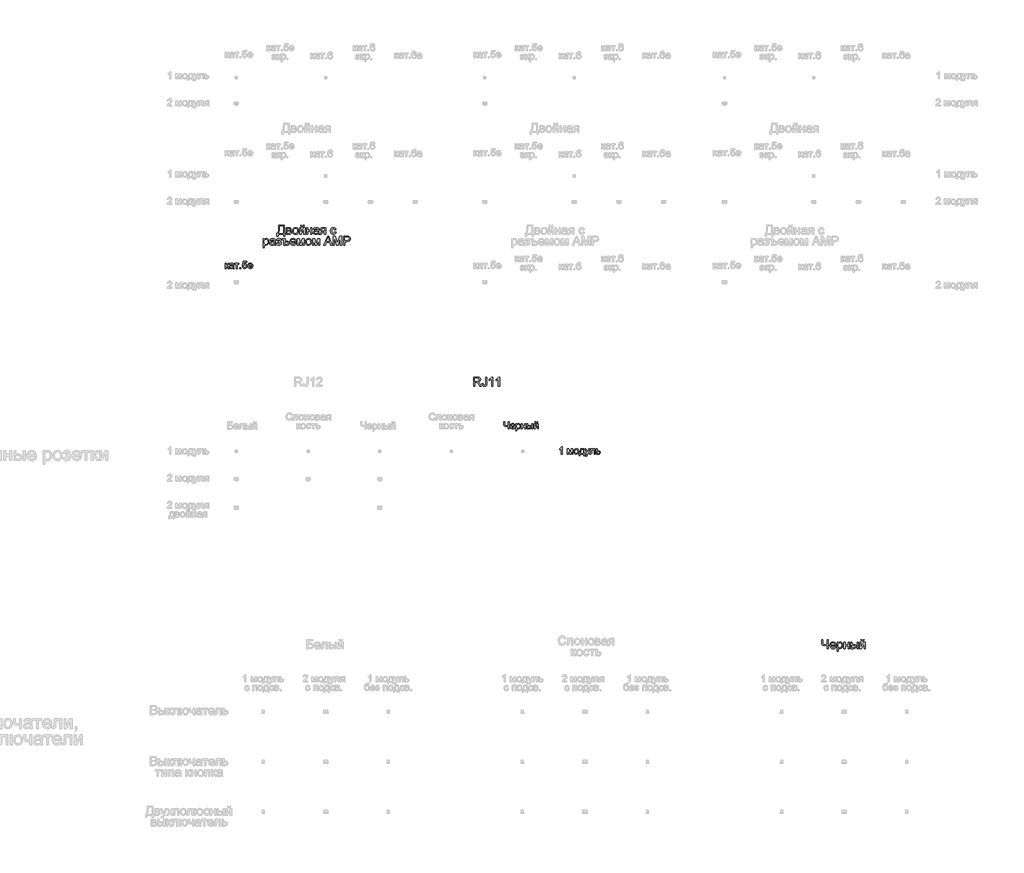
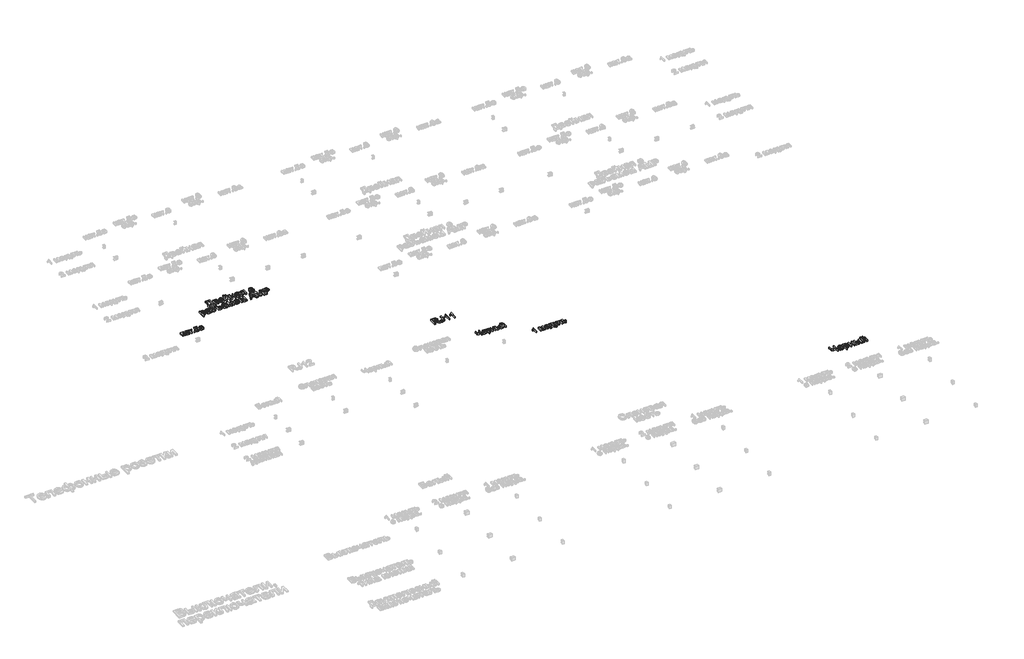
# One storey, part 23 of 47: 6 proxies.
"""IFC4 building model written with IfcOpenShell, lengths in millimetres."""

from ifc_helpers import new_model, si_unit, origin, origin_with_axes, place, context, project, spatial, polyline, outline, extrude, element, save

model = new_model("IFC4")

# Units and contexts
model_context = context("Model", 3, world=origin())
ifc_project = project(units=[si_unit("LENGTHUNIT", "METRE", prefix="MILLI")], contexts=[model_context])

# Site, building, storey
site = spatial("IfcSite", under=ifc_project)
building = spatial("IfcBuilding", under=site)
storey = spatial("IfcBuildingStorey", under=building, Name="Этаж 01", Elevation=0.0)

# Proxies
placement = place(None, origin())
element("IfcBuildingElementProxy", 1, Name="100 мм Arial", ObjectType="100 мм Arial", at=placement, inside=storey, context=model_context, shape_type="SweptSolid", body=[
    extrude(outline(polyline([(6629.1197653, -27927.0914705), (6616.5627265, -27927.0914705), (6616.5627265, -27886.8697057), (6585.4644352, -27894.1292437), (6567.1071236, -27889.1628368), (6556.4630712, -27876.5567471), (6553.7775327, -27856.5562293), (6553.7775327, -27826.6351603), (6566.3345714, -27826.6351603), (6566.3345714, -27854.8639721), (6567.8428876, -27868.4418834), (6572.3678362, -27876.4095943), (6586.8623868, -27881.572205), (6616.5627265, -27875.3427365), (6616.5627265, -27826.6351603), (6629.1197653, -27826.6351603), (6629.1197653, -27927.0914705)])), origin_with_axes(), (0.0, 0.0, 1.0), 20.0),
    extrude(outline(polyline([(6701.1755854, -27905.1166526), (6713.4873695, -27906.6862825), (6709.0513258, -27915.9630401), (6701.9726631, -27922.8976157), (6692.4107969, -27927.2202292), (6680.5251427, -27928.6611003), (6665.7914688, -27926.1748312), (6654.454572, -27918.7160237), (6647.2256908, -27906.7690559), (6644.8160637, -27890.8183058), (6647.2502163, -27874.331061), (6654.5526739, -27862.0008828), (6665.7362865, -27854.3121491), (6679.8139042, -27851.7492379), (6693.4531292, -27854.3060177), (6704.3516333, -27861.9763573), (6711.497741, -27874.2820101), (6713.879777, -27890.7447294), (6713.8062006, -27894.1292437), (6657.3731025, -27894.1292437), (6659.546672, -27903.5286287), (6664.5958523, -27910.4386788), (6671.8829815, -27914.6877159), (6680.7703974, -27916.1040616), (6693.0821815, -27913.4798367), (6701.1755854, -27905.1166526)]), holes=[polyline([(6657.3731025, -27881.572205), (6701.3227382, -27881.572205), (6696.2950176, -27870.1923886), (6688.9741659, -27865.7778046), (6679.7648533, -27864.3062766), (6664.3015467, -27869.0029034), (6659.4363074, -27874.4935422), (6657.3731025, -27881.572205)])]), origin_with_axes(), (0.0, 0.0, 1.0), 20.0),
    extrude(outline(polyline([(6726.4368157, -27955.3448077), (6726.4368157, -27853.3188677), (6738.9938545, -27853.3188677), (6738.9938545, -27865.6306518), (6747.6758696, -27855.2195914), (6759.3990425, -27851.7492379), (6775.3160702, -27856.6052802), (6785.7148679, -27870.2904904), (6789.2220096, -27889.6410834), (6785.2611468, -27909.9849577), (6773.758703, -27923.8418462), (6757.8784636, -27928.6611003), (6746.9523683, -27925.4360015), (6738.9938545, -27917.2812839), (6738.9938545, -27955.3448077), (6726.4368157, -27955.3448077)]), holes=[polyline([(6738.9938545, -27890.7937803), (6740.3519522, -27902.0509693), (6744.4262453, -27909.923644), (6750.4380502, -27914.5589572), (6757.6086835, -27916.1040616), (6764.8958126, -27914.5037749), (6771.0609017, -27909.7029148), (6775.2639535, -27901.5420659), (6776.6649708, -27889.8618126), (6775.2976761, -27878.6659372), (6771.1957918, -27870.6828979), (6765.1931839, -27865.900432), (6758.1237182, -27864.3062766), (6751.0266614, -27866.0015995), (6744.7941273, -27871.0875681), (6740.4439227, -27879.4047669), (6738.9938545, -27890.7937803)])]), origin_with_axes(), (0.0, 0.0, 1.0), 20.0),
    extrude(outline(polyline([(6803.3486782, -27853.3188677), (6815.905717, -27853.3188677), (6815.905717, -27881.572205), (6848.8679437, -27881.572205), (6848.8679437, -27853.3188677), (6861.4249825, -27853.3188677), (6861.4249825, -27927.0914705), (6848.8679437, -27927.0914705), (6848.8679437, -27894.1292437), (6815.905717, -27894.1292437), (6815.905717, -27927.0914705), (6803.3486782, -27927.0914705), (6803.3486782, -27853.3188677)])), origin_with_axes(), (0.0, 0.0, 1.0), 20.0),
    extrude(outline(polyline([(6880.2605406, -27853.3188677), (6892.8175794, -27853.3188677), (6892.8175794, -27880.0025751), (6908.3421996, -27880.0025751), (6921.7606954, -27881.5752706), (6931.7027063, -27886.2933572), (6937.8555327, -27893.7766901), (6939.9064748, -27903.6451247), (6938.1866265, -27912.6306424), (6933.0270815, -27920.2120772), (6924.0906147, -27925.3716222), (6911.0400009, -27927.0914705), (6880.2605406, -27927.0914705), (6880.2605406, -27853.3188677)]), holes=[polyline([(6892.8175794, -27914.5344317), (6905.7179747, -27914.5344317), (6922.3707664, -27911.8979441), (6927.349436, -27903.6696501), (6923.6583533, -27895.9441282), (6907.361181, -27892.5596139), (6892.8175794, -27892.5596139), (6892.8175794, -27914.5344317)])]), origin_with_axes(), (0.0, 0.0, 1.0), 20.0),
    extrude(outline(polyline([(6949.3242539, -27853.3188677), (6961.8812926, -27853.3188677), (6961.8812926, -27927.0914705), (6949.3242539, -27927.0914705), (6949.3242539, -27853.3188677)])), origin_with_axes(), (0.0, 0.0, 1.0), 20.0),
    extrude(outline(polyline([(6980.7168508, -27853.3188677), (6993.2738896, -27853.3188677), (6993.2738896, -27909.5802875), (7024.1269262, -27853.3188677), (7040.3627849, -27853.3188677), (7040.3627849, -27927.0914705), (7027.8057462, -27927.0914705), (7027.8057462, -27871.1734072), (6997.1489132, -27927.0914705), (6980.7168508, -27927.0914705), (6980.7168508, -27853.3188677)])), origin_with_axes(), (0.0, 0.0, 1.0), 20.0),
    extrude(outline(polyline([(7021.5272268, -27826.6351603), (7030.9450059, -27826.6351603), (7024.8504275, -27840.6024134), (7011.3246328, -27845.4707185), (6996.6829294, -27840.6392016), (6990.1346299, -27826.6351603), (6999.552409, -27826.6351603), (7003.0840761, -27833.7107574), (7010.1964613, -27836.0529394), (7017.9955596, -27833.7843338), (7021.5272268, -27826.6351603)])), origin_with_axes(), (0.0, 0.0, 1.0), 20.0),
])
element("IfcBuildingElementProxy", 2, Name="100 мм Arial", ObjectType="100 мм Arial", at=placement, inside=storey, context=model_context, shape_type="SweptSolid", body=[
    extrude(outline(polyline([(479.3530791, -23190.4463281), (538.9990133, -23190.4463281), (538.9990133, -23278.3455994), (548.4167924, -23278.3455994), (548.4167924, -23314.4470859), (535.8597536, -23314.4470859), (535.8597536, -23290.9026382), (471.5049299, -23290.9026382), (471.5049299, -23314.4470859), (458.9478911, -23314.4470859), (458.9478911, -23278.3455994), (466.7960404, -23278.3455994), (476.2138194, -23250.9322594), (479.3530791, -23204.9899296), (479.3530791, -23190.4463281)]), holes=[polyline([(526.4419745, -23203.0033668), (491.9101179, -23203.0033668), (491.9101179, -23208.0556129), (489.3594694, -23242.4648422), (485.5825476, -23262.348864), (479.3530791, -23278.3455994), (526.4419745, -23278.3455994), (526.4419745, -23203.0033668)])]), origin_with_axes(), (0.0, 0.0, 1.0), 20.0),
    extrude(outline(polyline([(562.543461, -23217.1300355), (590.208187, -23217.1300355), (605.3771879, -23218.8100299), (613.9120502, -23224.9659219), (617.4805056, -23235.6958135), (615.3222645, -23244.4146168), (608.823016, -23250.6318225), (617.2597764, -23257.4376394), (620.6197653, -23269.2711769), (618.4921811, -23278.8422401), (613.4338036, -23285.580612), (605.4262389, -23289.5721317), (594.4510927, -23290.9026382), (562.543461, -23290.9026382), (562.543461, -23217.1300355)]), holes=[polyline([(575.1004997, -23245.3833727), (587.5103857, -23245.3833727), (597.7497679, -23244.7457106), (602.7284376, -23242.1950621), (604.9234668, -23237.5842744), (601.0729686, -23231.4283823), (587.9027932, -23229.6870742), (575.1004997, -23229.6870742), (575.1004997, -23245.3833727)]), polyline([(575.1004997, -23278.3455994), (590.5024926, -23278.3455994), (604.1631774, -23276.0769938), (608.0627265, -23268.2411073), (605.9167482, -23262.1955799), (600.3249419, -23258.6761754), (589.2762193, -23257.9404114), (575.1004997, -23257.9404114), (575.1004997, -23278.3455994)])]), origin_with_axes(), (0.0, 0.0, 1.0), 20.0),
    extrude(outline(polyline([(633.176804, -23254.0163368), (635.8929994, -23236.2292424), (644.0415856, -23223.7273859), (654.1092896, -23217.6021507), (666.1635563, -23215.5604056), (679.3551915, -23218.0466748), (689.891945, -23225.5054822), (696.7989294, -23237.3482168), (699.1012576, -23252.9862672), (695.0300302, -23275.3289671), (683.1719672, -23287.971845), (666.1635563, -23292.4722681), (652.8125055, -23289.995196), (642.2880148, -23282.5639797), (635.4546067, -23270.4729248), (633.176804, -23254.0163368)]), holes=[polyline([(645.7338428, -23253.9918114), (647.1869767, -23265.3562993), (651.5463783, -23273.4527689), (658.1069406, -23278.2996142), (666.1635563, -23279.9152293), (674.1833838, -23278.2904171), (680.7316833, -23273.4159807), (685.0910849, -23265.2122122), (686.5442188, -23253.5994039), (685.0818879, -23242.5660097), (680.6948951, -23234.5799048), (674.1373985, -23229.7330595), (666.1635563, -23228.1174444), (658.1069406, -23229.7269281), (651.5463783, -23234.5553793), (647.1869767, -23242.6334548), (645.7338428, -23253.9918114)])]), origin_with_axes(), (0.0, 0.0, 1.0), 20.0),
    extrude(outline(polyline([(713.2279262, -23217.1300355), (725.784965, -23217.1300355), (725.784965, -23273.3914552), (756.6380016, -23217.1300355), (772.8738603, -23217.1300355), (772.8738603, -23290.9026382), (760.3168216, -23290.9026382), (760.3168216, -23234.984575), (729.6599886, -23290.9026382), (713.2279262, -23290.9026382), (713.2279262, -23217.1300355)])), origin_with_axes(), (0.0, 0.0, 1.0), 20.0),
    extrude(outline(polyline([(754.0383022, -23190.4463281), (763.4560813, -23190.4463281), (757.3615029, -23204.4135812), (743.8357082, -23209.2818862), (729.1940048, -23204.4503694), (722.6457053, -23190.4463281), (732.0634843, -23190.4463281), (735.5951515, -23197.5219251), (742.7075367, -23199.8641071), (750.506635, -23197.5955015), (754.0383022, -23190.4463281)])), origin_with_axes(), (0.0, 0.0, 1.0), 20.0),
    extrude(outline(polyline([(791.7094185, -23217.1300355), (804.2664573, -23217.1300355), (804.2664573, -23245.3833727), (837.228684, -23245.3833727), (837.228684, -23217.1300355), (849.7857228, -23217.1300355), (849.7857228, -23290.9026382), (837.228684, -23290.9026382), (837.228684, -23257.9404114), (804.2664573, -23257.9404114), (804.2664573, -23290.9026382), (791.7094185, -23290.9026382), (791.7094185, -23217.1300355)])), origin_with_axes(), (0.0, 0.0, 1.0), 20.0),
    extrude(outline(polyline([(915.7101763, -23281.4848591), (903.5332823, -23289.995196), (890.081064, -23292.4722681), (879.5872301, -23290.982346), (871.8463798, -23286.5125797), (867.0731109, -23279.7251569), (865.4820213, -23271.2822651), (867.885517, -23261.3494513), (874.2008245, -23254.1389642), (882.9932042, -23250.0186858), (893.8579858, -23248.1302249), (915.6365999, -23243.8137428), (915.7101763, -23241.0178397), (912.2520856, -23231.7472134), (898.3706716, -23228.1174444), (885.6664801, -23230.5332028), (879.6086899, -23239.1048533), (867.0516511, -23237.5352234), (872.4840419, -23225.2724903), (883.4223999, -23218.0865286), (899.9893524, -23215.5604056), (915.2074043, -23217.792223), (923.8035802, -23223.3962921), (927.6540784, -23231.9188917), (928.2672151, -23242.9063006), (928.2672151, -23258.5290226), (928.9048772, -23280.344425), (931.4064748, -23290.9026382), (918.849436, -23290.9026382), (915.7101763, -23281.4848591)]), holes=[polyline([(915.7101763, -23256.3707816), (895.4521411, -23260.2212798), (884.6486732, -23262.2568935), (879.7558427, -23265.5678315), (878.03906, -23270.3993484), (881.7791936, -23277.1929025), (892.7543398, -23279.9152293), (905.4585314, -23276.9108597), (913.6500372, -23269.6390589), (915.6365999, -23259.9269742), (915.7101763, -23256.3707816)])]), origin_with_axes(), (0.0, 0.0, 1.0), 20.0),
    extrude(outline(polyline([(1002.0398179, -23217.1300355), (1002.0398179, -23290.9026382), (989.4827791, -23290.9026382), (989.4827791, -23262.649301), (982.640174, -23262.649301), (973.3204968, -23264.2434563), (964.5649053, -23274.9610851), (954.558515, -23290.9026382), (940.039439, -23290.9026382), (952.6455287, -23270.7427049), (963.338632, -23260.2948562), (954.7547188, -23257.6645), (948.721454, -23252.6674362), (943.9635136, -23238.4426657), (945.5883257, -23229.8464898), (950.4627621, -23223.0406728), (958.4151446, -23218.6076948), (969.2737948, -23217.1300355), (1002.0398179, -23217.1300355)]), holes=[polyline([(989.4827791, -23229.6870742), (972.9280893, -23229.6870742), (959.524922, -23232.593342), (956.5205523, -23239.3991589), (960.947399, -23247.5048255), (976.6314347, -23250.0922622), (989.4827791, -23250.0922622), (989.4827791, -23229.6870742)])]), origin_with_axes(), (0.0, 0.0, 1.0), 20.0),
    extrude(outline(polyline([(1107.2050176, -23264.2189308), (1119.7620563, -23265.7885607), (1116.261046, -23276.9568449), (1109.6820897, -23285.396671), (1100.6444553, -23290.7033688), (1089.767411, -23292.4722681), (1076.4102289, -23290.004393), (1065.9654459, -23282.6007679), (1059.2240083, -23270.586355), (1056.9768625, -23254.286117), (1060.815098, -23233.4272078), (1072.5137454, -23220.0240405), (1089.5957327, -23215.5604056), (1100.2060626, -23217.0932473), (1108.6888083, -23221.6917722), (1114.7741896, -23229.1107258), (1118.1924265, -23239.1048533), (1105.6353877, -23240.6744831), (1099.8105895, -23231.2689668), (1089.6938346, -23228.1174444), (1081.5789709, -23229.6686801), (1075.1379703, -23234.3223874), (1070.9349185, -23242.3299521), (1069.5339013, -23253.9427604), (1070.9042617, -23265.7119186), (1075.015343, -23273.7470745), (1081.3398476, -23278.3731906), (1089.3504781, -23279.9152293), (1101.1840156, -23276.0647311), (1107.2050176, -23264.2189308)])), origin_with_axes(), (0.0, 0.0, 1.0), 20.0),
    extrude(outline(polyline([(304.3393513, -23441.1307933), (304.3393513, -23339.1048533), (316.8963901, -23339.1048533), (316.8963901, -23351.4166374), (325.5784051, -23341.0055769), (337.3015781, -23337.5352234), (353.2186057, -23342.3912658), (363.6174034, -23356.076476), (367.1245451, -23375.427069), (363.1636823, -23395.7709433), (351.6612386, -23409.6278318), (335.7809991, -23414.4470859), (324.8549039, -23411.2219871), (316.8963901, -23403.0672695), (316.8963901, -23441.1307933), (304.3393513, -23441.1307933)]), holes=[polyline([(316.8963901, -23376.5797659), (318.2544878, -23387.8369549), (322.3287809, -23395.7096296), (328.3405858, -23400.3449428), (335.511219, -23401.8900471), (342.7983482, -23400.2897605), (348.9634373, -23395.4889004), (353.1664891, -23387.3280515), (354.5675064, -23375.6477982), (353.2002116, -23364.4519228), (349.0983274, -23356.4688835), (343.0957195, -23351.6864175), (336.0262538, -23350.0922622), (328.929197, -23351.7875851), (322.6966628, -23356.8735537), (318.3464583, -23365.1907524), (316.8963901, -23376.5797659)])]), origin_with_axes(), (0.0, 0.0, 1.0), 20.0),
    extrude(outline(polyline([(428.3401091, -23403.459677), (416.1632151, -23411.9700138), (402.7109968, -23414.4470859), (392.2171629, -23412.9571638), (384.4763126, -23408.4873976), (379.7030437, -23401.6999748), (378.1119541, -23393.257083), (380.5154498, -23383.3242691), (386.8307573, -23376.113782), (395.623137, -23371.9935037), (406.4879186, -23370.1050428), (428.2665327, -23365.7885607), (428.3401091, -23362.9926575), (424.8820184, -23353.7220312), (411.0006044, -23350.0922622), (398.2964129, -23352.5080207), (392.2386227, -23361.0796711), (379.6815839, -23359.5100413), (385.1139747, -23347.2473081), (396.0523327, -23340.0613465), (412.6192852, -23337.5352234), (427.8373371, -23339.7670409), (436.433513, -23345.3711099), (440.2840112, -23353.8937095), (440.8971479, -23364.8811184), (440.8971479, -23380.5038405), (441.53481, -23402.3192428), (444.0364076, -23412.8774561), (431.4793688, -23412.8774561), (428.3401091, -23403.459677)]), holes=[polyline([(428.3401091, -23378.3455994), (408.0820739, -23382.1960977), (397.278606, -23384.2317114), (392.3857755, -23387.5426493), (390.6689928, -23392.3741662), (394.4091264, -23399.1677204), (405.3842726, -23401.8900471), (418.0884642, -23398.8856775), (426.27997, -23391.6138767), (428.2665327, -23381.9017921), (428.3401091, -23378.3455994)])]), origin_with_axes(), (0.0, 0.0, 1.0), 20.0),
    extrude(outline(polyline([(475.4290045, -23379.9152293), (475.4290045, -23367.3581905), (485.3372929, -23366.8676812), (490.340488, -23364.255719), (492.6949328, -23358.7988028), (489.5434104, -23352.4589697), (481.4132183, -23350.0922622), (473.0132461, -23352.446707), (467.5808553, -23359.5100413), (453.4541867, -23357.9404114), (462.8964912, -23342.6365204), (480.137894, -23337.5352234), (490.6347936, -23339.0895249), (498.5810447, -23343.7524292), (503.5842399, -23350.5735745), (505.2519716, -23358.602599), (502.8791327, -23366.4016973), (495.7606161, -23372.4349621), (504.0624865, -23380.2585858), (506.8216014, -23391.5157749), (505.0710963, -23400.75881), (499.8195808, -23408.0827274), (491.4226743, -23412.8559963), (480.2359959, -23414.4470859), (469.2945722, -23412.9755579), (460.9221912, -23408.560974), (455.1188527, -23401.2033341), (451.8845568, -23390.9026382), (466.0112254, -23389.3330084), (471.6766082, -23398.6036346), (481.4377438, -23401.8900471), (490.6102682, -23398.7385247), (494.2645627, -23390.681909), (491.995957, -23384.0845586), (487.1644402, -23380.5528914), (477.8815511, -23379.8416529), (475.4290045, -23379.9152293)])), origin_with_axes(), (0.0, 0.0, 1.0), 20.0),
    extrude(outline(polyline([(516.2393805, -23339.1048533), (549.2016073, -23339.1048533), (549.2016073, -23367.3581905), (564.7752784, -23367.3581905), (579.0613626, -23369.0197909), (588.8102354, -23374.0045919), (594.4204359, -23381.39902), (596.2905027, -23390.2895016), (594.4694868, -23399.3669898), (589.0064392, -23406.5866739), (579.9871989, -23411.3047605), (567.4976052, -23412.8774561), (536.6445685, -23412.8774561), (536.6445685, -23351.6618921), (516.2393805, -23351.6618921), (516.2393805, -23339.1048533)]), holes=[polyline([(549.2016073, -23400.3204173), (562.126528, -23400.3204173), (578.8161079, -23397.9046589), (583.7334639, -23390.1423488), (579.5273464, -23382.5885051), (563.7697343, -23379.9152293), (549.2016073, -23379.9152293), (549.2016073, -23400.3204173)])]), origin_with_axes(), (0.0, 0.0, 1.0), 20.0),
    extrude(outline(polyline([(662.0678034, -23390.9026382), (674.3795875, -23392.4722681), (669.9435438, -23401.7490257), (662.8648811, -23408.6836013), (653.3030149, -23413.0062148), (641.4173607, -23414.4470859), (626.6836868, -23411.9608168), (615.34679, -23404.5020093), (608.1179088, -23392.5550415), (605.7082817, -23376.6042913), (608.1424343, -23360.1170466), (615.4448919, -23347.7868684), (626.6285045, -23340.0981347), (640.7061222, -23337.5352234), (654.3453472, -23340.0920033), (665.2438513, -23347.7623429), (672.389959, -23360.0679957), (674.771995, -23376.5307149), (674.6984186, -23379.9152293), (618.2653205, -23379.9152293), (620.43889, -23389.3146143), (625.4880703, -23396.2246644), (632.7751995, -23400.4737015), (641.6626154, -23401.8900471), (653.9743995, -23399.2658222), (662.0678034, -23390.9026382)]), holes=[polyline([(618.2653205, -23367.3581905), (662.2149562, -23367.3581905), (657.1872356, -23355.9783741), (649.8663839, -23351.5637902), (640.6570713, -23350.0922622), (625.1937647, -23354.788889), (620.3285254, -23360.2795278), (618.2653205, -23367.3581905)])]), origin_with_axes(), (0.0, 0.0, 1.0), 20.0),
    extrude(outline(polyline([(687.3290337, -23339.1048533), (708.9359696, -23339.1048533), (725.5887612, -23398.1621763), (743.5414026, -23339.1048533), (764.2408962, -23339.1048533), (764.2408962, -23412.8774561), (751.6838574, -23412.8774561), (751.6838574, -23353.4767766), (733.6331142, -23412.8774561), (717.1520008, -23412.8774561), (699.8860725, -23350.6318225), (699.8860725, -23412.8774561), (687.3290337, -23412.8774561), (687.3290337, -23339.1048533)])), origin_with_axes(), (0.0, 0.0, 1.0), 20.0),
    extrude(outline(polyline([(779.9371947, -23375.9911547), (782.65339, -23358.2040602), (790.8019762, -23345.7022037), (800.8696802, -23339.5769685), (812.9239469, -23337.5352234), (826.1155821, -23340.0214926), (836.6523356, -23347.4803001), (843.55932, -23359.3230346), (845.8616482, -23374.9610851), (841.7904208, -23397.3037849), (829.9323578, -23409.9466628), (812.9239469, -23414.4470859), (799.5728961, -23411.9700138), (789.0484054, -23404.5387975), (782.2149973, -23392.4477426), (779.9371947, -23375.9911547)]), holes=[polyline([(792.4942334, -23375.9666292), (793.9473673, -23387.3311172), (798.3067689, -23395.4275868), (804.8673312, -23400.274432), (812.9239469, -23401.8900471), (820.9437744, -23400.265235), (827.4920739, -23395.3907986), (831.8514755, -23387.1870301), (833.3046094, -23375.5742218), (831.8422785, -23364.5408276), (827.4552857, -23356.5547226), (820.8977891, -23351.7078773), (812.9239469, -23350.0922622), (804.8673312, -23351.7017459), (798.3067689, -23356.5301971), (793.9473673, -23364.6082726), (792.4942334, -23375.9666292)])]), origin_with_axes(), (0.0, 0.0, 1.0), 20.0),
    extrude(outline(polyline([(859.9883168, -23339.1048533), (881.5952527, -23339.1048533), (898.2480443, -23398.1621763), (916.2006857, -23339.1048533), (936.9001793, -23339.1048533), (936.9001793, -23412.8774561), (924.3431405, -23412.8774561), (924.3431405, -23353.4767766), (906.2923973, -23412.8774561), (889.8112839, -23412.8774561), (872.5453556, -23350.6318225), (872.5453556, -23412.8774561), (859.9883168, -23412.8774561), (859.9883168, -23339.1048533)])), origin_with_axes(), (0.0, 0.0, 1.0), 20.0),
    extrude(outline(polyline([(984.847466, -23412.8774561), (1024.9466034, -23312.4211459), (1035.6397068, -23312.4211459), (1075.7388442, -23412.8774561), (1062.4705669, -23412.8774561), (1050.9681232, -23381.4848591), (1009.5936615, -23381.4848591), (998.1157433, -23412.8774561), (984.847466, -23412.8774561)]), holes=[polyline([(1014.2044492, -23368.9278204), (1046.381861, -23368.9278204), (1037.3319639, -23344.2306758), (1030.2931551, -23324.9781847), (1024.0391612, -23342.0724347), (1014.2044492, -23368.9278204)])]), origin_with_axes(), (0.0, 0.0, 1.0), 20.0),
    extrude(outline(polyline([(1089.1542743, -23412.8774561), (1089.1542743, -23312.4211459), (1110.7612102, -23312.4211459), (1131.313551, -23383.2261673), (1135.4583548, -23398.0150235), (1139.9465151, -23381.9998939), (1160.1554994, -23312.4211459), (1181.7624353, -23312.4211459), (1181.7624353, -23412.8774561), (1169.2053965, -23412.8774561), (1169.2053965, -23324.9781847), (1143.9686916, -23412.8774561), (1126.948018, -23412.8774561), (1101.7113131, -23324.9781847), (1101.7113131, -23412.8774561), (1089.1542743, -23412.8774561)])), origin_with_axes(), (0.0, 0.0, 1.0), 20.0),
    extrude(outline(polyline([(1203.7372531, -23412.8774561), (1203.7372531, -23312.4211459), (1240.966911, -23312.4211459), (1255.9764964, -23313.3776391), (1268.1779159, -23318.0742659), (1276.0873788, -23327.7863506), (1279.0794857, -23341.4838235), (1277.0592004, -23353.3234924), (1270.9983445, -23363.1888612), (1259.6645134, -23369.8475254), (1241.8253023, -23372.0670801), (1216.2942919, -23372.0670801), (1216.2942919, -23412.8774561), (1203.7372531, -23412.8774561)]), holes=[polyline([(1216.2942919, -23359.5100413), (1242.5610663, -23359.5100413), (1261.0532679, -23354.8992536), (1265.1551522, -23349.3503669), (1266.5224469, -23341.9252819), (1263.2973481, -23331.5264842), (1254.8237995, -23325.836576), (1242.2667607, -23324.9781847), (1216.2942919, -23324.9781847), (1216.2942919, -23359.5100413)])]), origin_with_axes(), (0.0, 0.0, 1.0), 20.0),
])
element("IfcBuildingElementProxy", 3, Name="80 мм Arial", ObjectType="80 мм Arial", at=placement, inside=storey, context=model_context, shape_type="SweptSolid", body=[
    extrude(outline(polyline([(-119.3935865, -23614.963684), (-109.3479555, -23614.963684), (-109.3479555, -23640.0777615), (-102.6181676, -23638.2726872), (-97.1048427, -23627.7561672), (-92.5234856, -23618.6817447), (-88.4816888, -23615.7288785), (-81.133859, -23614.963684), (-79.2110625, -23614.963684), (-79.2110625, -23625.0681761), (-81.918674, -23625.009315), (-86.8237672, -23626.0688151), (-90.2769529, -23632.6808809), (-94.3285599, -23639.8325069), (-100.0086579, -23643.3347434), (-93.6712774, -23647.2441028), (-87.4516192, -23655.4797544), (-76.6996547, -23673.9817662), (-88.1187119, -23673.9817662), (-98.6548522, -23655.8721618), (-103.9523529, -23648.2104062), (-109.3479555, -23646.3562809), (-109.3479555, -23673.9817662), (-119.3935865, -23673.9817662), (-119.3935865, -23614.963684)])), origin_with_axes(), (0.0, 0.0, 1.0), 20.0),
    extrude(outline(polyline([(-32.750019, -23666.4475429), (-42.4915343, -23673.2558124), (-53.2533089, -23675.2374701), (-67.8410563, -23670.4697194), (-72.9325431, -23658.2854677), (-71.0097465, -23650.3392166), (-65.9575005, -23644.570827), (-58.9235967, -23641.2746043), (-50.2317715, -23639.7638355), (-32.8088802, -23636.3106499), (-32.750019, -23634.0739274), (-35.5164916, -23626.6574263), (-46.6216228, -23623.7536111), (-56.7849761, -23625.6862179), (-61.6312082, -23632.5435383), (-71.6768392, -23631.2878344), (-67.3309266, -23621.4776478), (-58.5802402, -23615.7288785), (-45.3266782, -23613.7079801), (-33.1522367, -23615.4934341), (-26.2752959, -23619.9766893), (-23.1948974, -23626.7947689), (-22.704388, -23635.5846961), (-22.704388, -23648.0828737), (-22.1942583, -23665.5351956), (-20.1929803, -23673.9817662), (-30.2386113, -23673.9817662), (-32.750019, -23666.4475429)]), holes=[polyline([(-32.750019, -23646.3562809), (-48.9564472, -23649.4366795), (-57.5992215, -23651.0651704), (-61.513486, -23653.7139208), (-62.8869121, -23657.5791343), (-59.8948052, -23663.0139776), (-51.1146882, -23665.1918391), (-40.951335, -23662.7883434), (-34.3981304, -23656.9709027), (-32.8088802, -23649.201235), (-32.750019, -23646.3562809)])]), origin_with_axes(), (0.0, 0.0, 1.0), 20.0),
    extrude(outline(polyline([(-13.9144609, -23614.963684), (33.8022864, -23614.963684), (33.8022864, -23625.009315), (14.9667283, -23625.009315), (14.9667283, -23673.9817662), (4.9210973, -23673.9817662), (4.9210973, -23625.009315), (-13.9144609, -23625.009315), (-13.9144609, -23614.963684)])), origin_with_axes(), (0.0, 0.0, 1.0), 20.0),
    extrude(outline(polyline([(45.1036213, -23673.9817662), (45.1036213, -23663.9361352), (55.1492523, -23663.9361352), (55.1492523, -23673.9817662), (45.1036213, -23673.9817662)])), origin_with_axes(), (0.0, 0.0, 1.0), 20.0),
    extrude(outline(polyline([(71.4734027, -23652.6348003), (81.5190338, -23651.3790964), (86.58109, -23661.7288432), (97.0779896, -23665.1918391), (109.6742691, -23660.3750375), (114.1673346, -23647.5923644), (109.9587645, -23635.6631776), (97.2349526, -23631.2878344), (88.4155949, -23633.0340476), (82.7747376, -23637.5663538), (72.7291066, -23636.3106499), (81.5190338, -23594.872422), (120.4458539, -23594.872422), (120.4458539, -23604.918053), (89.6418682, -23604.918053), (85.3450065, -23627.0498338), (100.0406659, -23621.2422034), (109.4265619, -23623.0423726), (117.2183026, -23628.4428803), (122.4642998, -23636.6736268), (124.2129656, -23646.9645125), (122.6384306, -23657.0101435), (117.9148258, -23665.6038669), (108.8698338, -23672.8290693), (97.0387489, -23675.2374701), (87.1721537, -23673.6899131), (79.3117418, -23669.0472424), (73.9234968, -23661.849018), (71.4734027, -23652.6348003)])), origin_with_axes(), (0.0, 0.0, 1.0), 20.0),
    extrude(outline(polyline([(176.8348062, -23656.4019119), (186.6842334, -23657.6576158), (177.4724683, -23670.6266824), (160.314452, -23675.2374701), (148.5275129, -23673.2484548), (139.4579954, -23667.2814088), (133.6748905, -23657.7238346), (131.7471888, -23644.9632344), (133.6945109, -23631.7734386), (139.5364769, -23621.9092961), (148.4833671, -23615.7583091), (159.7454612, -23613.7079801), (170.6568412, -23615.753404), (179.3756445, -23621.8896757), (185.0925307, -23631.7341979), (186.9981594, -23644.9043733), (186.9392983, -23647.6119848), (141.7928198, -23647.6119848), (147.5710197, -23660.6595329), (160.5106558, -23665.1918391), (170.360083, -23663.0924591), (176.8348062, -23656.4019119)]), holes=[polyline([(141.7928198, -23637.5663538), (176.9525284, -23637.5663538), (172.9303519, -23628.4625007), (159.7062205, -23623.7536111), (147.3355752, -23627.5109126), (141.7928198, -23637.5663538)])]), origin_with_axes(), (0.0, 0.0, 1.0), 20.0),
])
element("IfcBuildingElementProxy", 4, Name="80 мм Arial", ObjectType="80 мм Arial", at=placement, inside=storey, context=model_context, shape_type="SweptSolid", body=[
    extrude(outline(polyline([(3055.5237699, -25468.4824925), (3045.4781389, -25468.4824925), (3045.4781389, -25436.3050806), (3020.5995059, -25442.1127111), (3005.9136566, -25438.1395855), (2997.3984147, -25428.0547138), (2995.2499839, -25412.0542995), (2995.2499839, -25388.1174444), (3005.2956149, -25388.1174444), (3005.2956149, -25410.7004938), (3006.5022678, -25421.5628228), (3010.1222267, -25427.9369915), (3021.7178671, -25432.0670801), (3045.4781389, -25427.0835053), (3045.4781389, -25388.1174444), (3055.5237699, -25388.1174444), (3055.5237699, -25468.4824925)])), origin_with_axes(), (0.0, 0.0, 1.0), 20.0),
    extrude(outline(polyline([(3113.168426, -25450.9026382), (3123.0178533, -25452.1583421), (3113.8060882, -25465.1274087), (3096.6480719, -25469.7381964), (3084.8611328, -25467.749181), (3075.7916153, -25461.7821351), (3070.0085104, -25452.2245609), (3068.0808087, -25439.4639607), (3070.0281307, -25426.2741649), (3075.8700968, -25416.4100223), (3084.816987, -25410.2590354), (3096.0790811, -25408.2087064), (3106.9904611, -25410.2541303), (3115.7092644, -25416.390402), (3121.4261506, -25426.2349242), (3123.3317793, -25439.4050996), (3123.2729182, -25442.1127111), (3078.1264397, -25442.1127111), (3083.9046396, -25455.1602592), (3096.8442756, -25459.6925654), (3106.6937029, -25457.5931854), (3113.168426, -25450.9026382)]), holes=[polyline([(3078.1264397, -25432.0670801), (3113.2861483, -25432.0670801), (3109.2639718, -25422.963227), (3096.0398404, -25418.2543374), (3083.6691951, -25422.0116389), (3078.1264397, -25432.0670801)])]), origin_with_axes(), (0.0, 0.0, 1.0), 20.0),
    extrude(outline(polyline([(3133.3774103, -25491.0851623), (3133.3774103, -25409.4644103), (3143.4230413, -25409.4644103), (3143.4230413, -25419.3138376), (3150.3686534, -25410.9849892), (3159.7471917, -25408.2087064), (3172.4808139, -25412.0935403), (3180.799852, -25423.0417084), (3183.6055654, -25438.5221828), (3180.4368751, -25454.7972823), (3171.2349202, -25465.8827931), (3158.5307286, -25469.7381964), (3149.7898524, -25467.1581173), (3143.4230413, -25460.6343433), (3143.4230413, -25491.0851623), (3133.3774103, -25491.0851623)]), holes=[polyline([(3143.4230413, -25439.4443403), (3147.768954, -25454.7482313), (3158.3149045, -25459.6925654), (3169.0766791, -25454.571648), (3173.5599344, -25438.6987662), (3169.1845912, -25423.3556344), (3158.7269323, -25418.2543374), (3148.0632596, -25423.6793706), (3143.4230413, -25439.4443403)])]), origin_with_axes(), (0.0, 0.0, 1.0), 20.0),
    extrude(outline(polyline([(3194.9069003, -25409.4644103), (3204.9525313, -25409.4644103), (3204.9525313, -25432.0670801), (3231.3223127, -25432.0670801), (3231.3223127, -25409.4644103), (3241.3679437, -25409.4644103), (3241.3679437, -25468.4824925), (3231.3223127, -25468.4824925), (3231.3223127, -25442.1127111), (3204.9525313, -25442.1127111), (3204.9525313, -25468.4824925), (3194.9069003, -25468.4824925), (3194.9069003, -25409.4644103)])), origin_with_axes(), (0.0, 0.0, 1.0), 20.0),
    extrude(outline(polyline([(3311.6873608, -25409.4644103), (3321.7329918, -25409.4644103), (3321.7329918, -25468.4824925), (3311.6873608, -25468.4824925), (3311.6873608, -25409.4644103)])), origin_with_axes(), (0.0, 0.0, 1.0), 20.0),
    extrude(outline(polyline([(3256.4363902, -25409.4644103), (3266.4820213, -25409.4644103), (3266.4820213, -25430.8113762), (3278.9017174, -25430.8113762), (3297.5901228, -25435.8440019), (3302.5123839, -25441.8306682), (3304.1531376, -25449.7254158), (3298.6496229, -25462.9789778), (3291.5004495, -25467.1066138), (3281.0599585, -25468.4824925), (3256.4363902, -25468.4824925), (3256.4363902, -25409.4644103)]), holes=[polyline([(3266.4820213, -25458.4368615), (3276.8023375, -25458.4368615), (3290.1245708, -25456.3276714), (3294.1075066, -25449.7450362), (3291.1546404, -25443.5646187), (3278.1169025, -25440.8570072), (3266.4820213, -25440.8570072), (3266.4820213, -25458.4368615)])]), origin_with_axes(), (0.0, 0.0, 1.0), 20.0),
    extrude(outline(polyline([(3336.8014384, -25409.4644103), (3346.8470694, -25409.4644103), (3346.8470694, -25454.4735461), (3371.5294987, -25409.4644103), (3384.5181857, -25409.4644103), (3384.5181857, -25468.4824925), (3374.4725547, -25468.4824925), (3374.4725547, -25423.7480419), (3349.9470883, -25468.4824925), (3336.8014384, -25468.4824925), (3336.8014384, -25409.4644103)])), origin_with_axes(), (0.0, 0.0, 1.0), 20.0),
    extrude(outline(polyline([(3369.4497392, -25388.1174444), (3376.9839624, -25388.1174444), (3372.1082997, -25399.2912468), (3361.287664, -25403.1858909), (3349.5743012, -25399.3206774), (3344.3356616, -25388.1174444), (3351.8698849, -25388.1174444), (3354.6952186, -25393.777922), (3360.3851268, -25395.6516676), (3366.6244054, -25393.8367831), (3369.4497392, -25388.1174444)])), origin_with_axes(), (0.0, 0.0, 1.0), 20.0),
])
element("IfcBuildingElementProxy", 5, Name="100 мм Arial", ObjectType="100 мм Arial", at=placement, inside=storey, context=model_context, shape_type="SweptSolid", body=[
    extrude(outline(polyline([(2658.6705085, -24990.9026382), (2658.6705085, -24890.4463281), (2701.9579566, -24890.4463281), (2722.0565763, -24893.1563921), (2733.0439852, -24902.7458494), (2737.1520008, -24917.9393758), (2735.4505466, -24927.8354015), (2730.3461839, -24936.03917), (2721.6856286, -24942.0540406), (2709.3155965, -24945.3833727), (2716.4525072, -24950.7544498), (2726.6305757, -24963.6793706), (2743.3814693, -24990.9026382), (2728.7888168, -24990.9026382), (2715.7167432, -24970.0805173), (2706.2744387, -24956.2972052), (2699.6403, -24949.7856939), (2693.668349, -24947.3944609), (2686.3842855, -24946.9530025), (2671.2275473, -24946.9530025), (2671.2275473, -24990.9026382), (2658.6705085, -24990.9026382)]), holes=[polyline([(2671.2275473, -24934.3959638), (2699.3337317, -24934.3959638), (2713.6688668, -24932.6178674), (2721.8113216, -24926.9279593), (2724.594962, -24918.4053597), (2719.2851986, -24907.3443744), (2702.4975169, -24903.0033668), (2671.2275473, -24903.0033668), (2671.2275473, -24934.3959638)])]), origin_with_axes(), (0.0, 0.0, 1.0), 20.0),
    extrude(outline(polyline([(2752.8482993, -24962.6983519), (2765.405338, -24961.0796711), (2769.6972946, -24975.9175783), (2780.2922961, -24979.9152293), (2788.8884721, -24977.6466237), (2793.8671417, -24971.4662061), (2795.2283051, -24959.019532), (2795.2283051, -24890.4463281), (2807.7853439, -24890.4463281), (2807.7853439, -24958.7988028), (2804.7564488, -24978.3088112), (2795.142466, -24988.842499), (2779.7036849, -24992.4722681), (2768.097008, -24990.5991356), (2759.568277, -24984.9797381), (2754.3934036, -24975.6631266), (2752.8482993, -24962.6983519)])), origin_with_axes(), (0.0, 0.0, 1.0), 20.0),
    extrude(outline(polyline([(2872.1401676, -24990.9026382), (2859.5831288, -24990.9026382), (2859.5831288, -24912.6173496), (2847.6882776, -24921.0908983), (2834.4690513, -24927.4307313), (2834.4690513, -24915.5604056), (2852.8754138, -24903.8127072), (2864.0467637, -24890.4463281), (2872.1401676, -24890.4463281), (2872.1401676, -24990.9026382)])), origin_with_axes(), (0.0, 0.0, 1.0), 20.0),
    extrude(outline(polyline([(2949.05203, -24990.9026382), (2936.4949913, -24990.9026382), (2936.4949913, -24912.6173496), (2924.6001401, -24921.0908983), (2911.3809137, -24927.4307313), (2911.3809137, -24915.5604056), (2929.7872762, -24903.8127072), (2940.9586261, -24890.4463281), (2949.05203, -24890.4463281), (2949.05203, -24990.9026382)])), origin_with_axes(), (0.0, 0.0, 1.0), 20.0),
])
element("IfcBuildingElementProxy", 6, Name="80 мм Arial", ObjectType="80 мм Arial", at=placement, inside=storey, context=model_context, shape_type="SweptSolid", body=[
    extrude(outline(polyline([(3651.0563135, -25751.4329989), (3641.0106825, -25751.4329989), (3641.0106825, -25688.804768), (3631.4948016, -25695.5836069), (3620.9194205, -25700.6554733), (3620.9194205, -25691.1592128), (3635.6445105, -25681.7610541), (3644.5815904, -25671.0679507), (3651.0563135, -25671.0679507), (3651.0563135, -25751.4329989)])), origin_with_axes(), (0.0, 0.0, 1.0), 20.0),
    extrude(outline(polyline([(3708.8186919, -25692.4149166), (3726.1042406, -25692.4149166), (3739.4264739, -25739.660775), (3753.788587, -25692.4149166), (3770.3481818, -25692.4149166), (3770.3481818, -25751.4329989), (3760.3025508, -25751.4329989), (3760.3025508, -25703.9124553), (3745.8619562, -25751.4329989), (3732.6770655, -25751.4329989), (3718.8643229, -25701.636492), (3718.8643229, -25751.4329989), (3708.8186919, -25751.4329989), (3708.8186919, -25692.4149166)])), origin_with_axes(), (0.0, 0.0, 1.0), 20.0),
    extrude(outline(polyline([(3782.9052206, -25721.9239578), (3785.0781769, -25707.6942822), (3791.5970459, -25697.692797), (3799.651209, -25692.7926088), (3809.2946224, -25691.1592128), (3819.8479306, -25693.1482281), (3828.2773333, -25699.1152741), (3833.8029209, -25708.5894617), (3835.6447834, -25721.0999021), (3832.3878015, -25738.974062), (3822.9013511, -25749.0883643), (3809.2946224, -25752.6887027), (3798.6137818, -25750.7070451), (3790.1941892, -25744.762072), (3784.7274628, -25735.0892281), (3782.9052206, -25721.9239578)]), holes=[polyline([(3792.9508516, -25721.9043374), (3797.60088, -25737.4731034), (3809.2946224, -25742.6430717), (3820.949124, -25737.4436729), (3825.5991524, -25721.5904114), (3820.9196934, -25706.3748121), (3809.2946224, -25701.2048438), (3797.60088, -25706.3551917), (3792.9508516, -25721.9043374)])]), origin_with_axes(), (0.0, 0.0, 1.0), 20.0),
    extrude(outline(polyline([(3855.7360455, -25692.4149166), (3893.4071618, -25692.4149166), (3893.4071618, -25741.3873678), (3900.941385, -25741.3873678), (3900.941385, -25767.7571493), (3890.895754, -25767.7571493), (3890.895754, -25751.4329989), (3849.4575261, -25751.4329989), (3849.4575261, -25767.7571493), (3839.4118951, -25767.7571493), (3839.4118951, -25741.3873678), (3845.6904145, -25741.3873678), (3853.450272, -25722.2280735), (3855.7360455, -25692.4149166)]), holes=[polyline([(3864.5259726, -25702.4605477), (3862.1715278, -25725.3477129), (3856.9917493, -25741.3873678), (3883.3615308, -25741.3873678), (3883.3615308, -25702.4605477), (3864.5259726, -25702.4605477)])]), origin_with_axes(), (0.0, 0.0, 1.0), 20.0),
    extrude(outline(polyline([(3912.2427199, -25774.0356686), (3910.987016, -25764.3628247), (3916.088313, -25765.2457415), (3920.8560637, -25764.1371904), (3923.7794993, -25761.0469817), (3926.5263515, -25753.650101), (3927.3111664, -25751.2171748), (3905.9642005, -25692.4149166), (3916.559202, -25692.4149166), (3927.8801573, -25725.1809397), (3931.8238523, -25738.2873489), (3935.7675472, -25726.7113288), (3947.4024285, -25692.4149166), (3957.9189484, -25692.4149166), (3937.3764178, -25752.8456657), (3932.0396764, -25765.9520749), (3926.2124256, -25773.0350296), (3918.3838967, -25775.2913725), (3912.2427199, -25774.0356686)])), origin_with_axes(), (0.0, 0.0, 1.0), 20.0),
    extrude(outline(polyline([(3971.2608021, -25692.4149166), (4016.4661417, -25692.4149166), (4016.4661417, -25751.3741377), (4006.4205107, -25751.3741377), (4006.4205107, -25702.4605477), (3981.3064332, -25702.4605477), (3981.3064332, -25730.615783), (3980.6295303, -25743.60447), (3976.9114696, -25749.0883643), (3968.1215424, -25751.4329989), (3959.9594672, -25750.9228692), (3959.9594672, -25741.3873678), (3964.4525327, -25741.3873678), (3968.994649, -25740.7693261), (3970.8095336, -25738.8072888), (3971.2608021, -25730.0467922), (3971.2608021, -25692.4149166)])), origin_with_axes(), (0.0, 0.0, 1.0), 20.0),
    extrude(outline(polyline([(4031.5345882, -25692.4149166), (4041.5802192, -25692.4149166), (4041.5802192, -25713.7618826), (4053.1562394, -25713.7618826), (4070.6183714, -25718.7945083), (4075.2095387, -25724.7811746), (4076.7399278, -25732.6759222), (4071.5307187, -25745.9294842), (4064.7592375, -25750.0571202), (4054.8632118, -25751.4329989), (4031.5345882, -25751.4329989), (4031.5345882, -25692.4149166)]), holes=[polyline([(4041.5802192, -25741.3873678), (4050.9587576, -25741.3873678), (4063.0743379, -25739.2781777), (4066.6942968, -25732.6955426), (4064.0161159, -25726.5151251), (4052.1556003, -25723.8075136), (4041.5802192, -25723.8075136), (4041.5802192, -25741.3873678)])]), origin_with_axes(), (0.0, 0.0, 1.0), 20.0),
])

save(model, "model.ifc")
